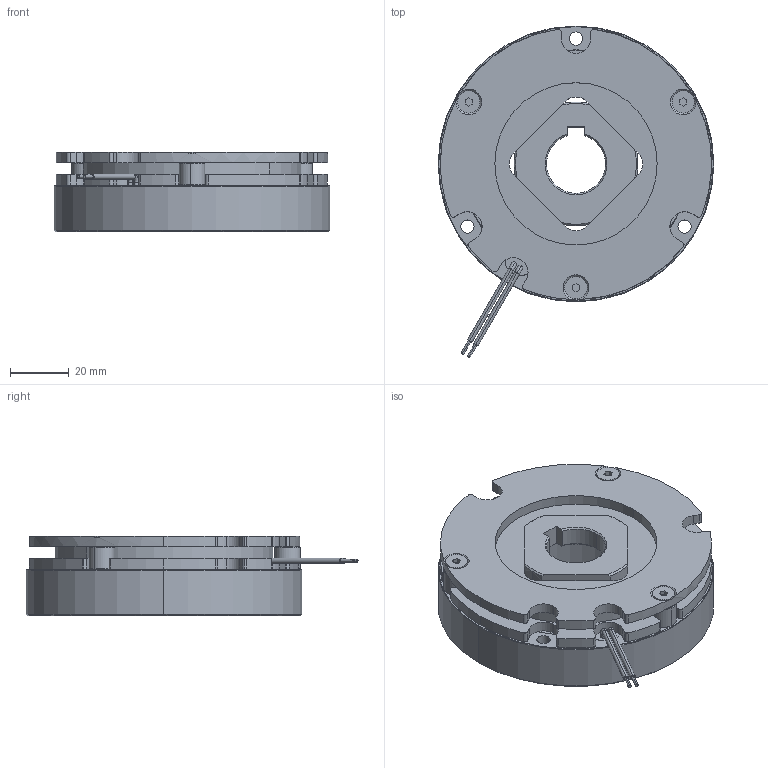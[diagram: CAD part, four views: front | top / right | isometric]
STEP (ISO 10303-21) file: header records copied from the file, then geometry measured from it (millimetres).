
FILE_DESCRIPTION (( 'STEP AP214' ), '1' );
FILE_NAME ('ÌÞÚ°·_BXR-08-10.STEP', '2017-07-31T07:45:02', ( 'MIKI' ), ( '' ), 'SwSTEP 2.0', 'SolidWorks 2012', '' );
FILE_SCHEMA (( 'AUTOMOTIVE_DESIGN' ));
Length unit declared in the file: millimetre
Products named in the file (1): 枌痚愷BXR-08-10
Bounding box: 93.5 x 112.56 x 27 mm (x, y, z)
Volume: 126340 mm3; surface area: 39975.6 mm2
Topology: 1 solids, 4 shells, 322 faces, 823 edges, 518 vertices
Faces by surface type: cylinder 157, plane 96, cone 63, torus 6
Entity records: 13517 total; most frequent: DIRECTION 1857, CARTESIAN_POINT 1745, ORIENTED_EDGE 1646, EDGE_CURVE 823, AXIS2_PLACEMENT_3D 736, VERTEX_POINT 518, CIRCLE 413, LINE 385
